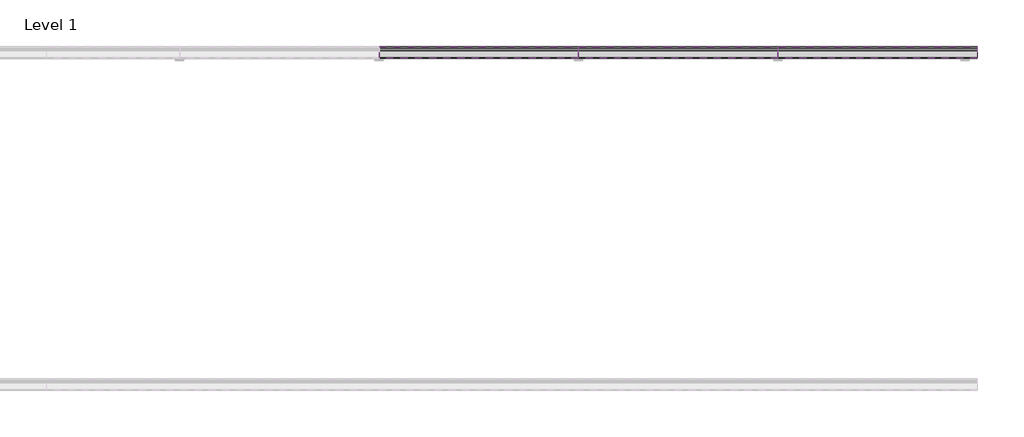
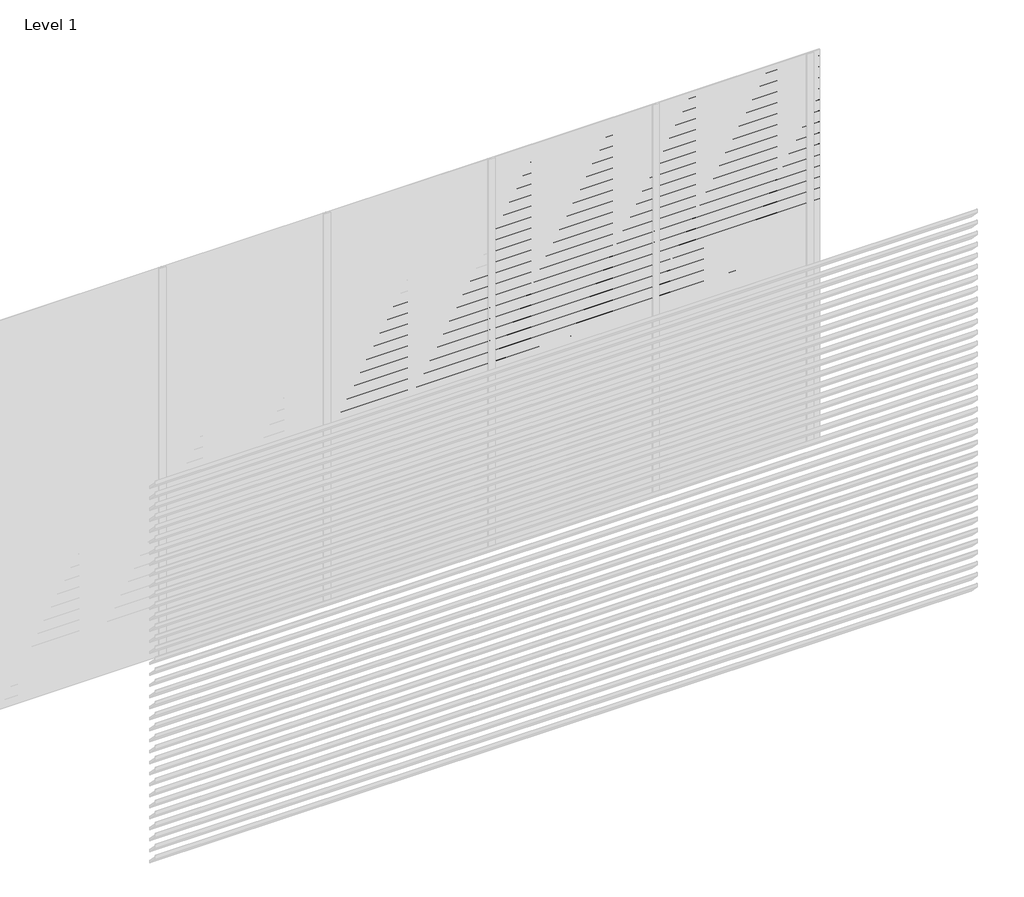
# One storey, part 10 of 10: 95 proxies.
"""IFC4 building model written with IfcOpenShell, lengths in millimetres."""

from ifc_helpers import new_model, si_unit, frame, origin, place, context, project, spatial, polyline, outline, extrude, element, save

model = new_model("IFC4")

# Units and contexts
model_context = context("Model", 3, world=origin())
ifc_project = project(units=[si_unit("LENGTHUNIT", "METRE", prefix="MILLI")], contexts=[model_context])

# Site, building, storey
site = spatial("IfcSite", under=ifc_project)
building = spatial("IfcBuilding", under=site)
storey = spatial("IfcBuildingStorey", under=building, Name="Level 1", Elevation=0.0)

# Proxies
placement = place(None, origin())
element("IfcBuildingElementProxy", 1, Name="Wall Sweeps", at=placement, inside=storey, context=model_context, shape_type="SweptSolid", body=[
    extrude(outline(polyline([(5.0, 2125.0), (5.0, 2112.0), (73.0, 2044.0), (73.0, 2026.0), (3.0, 2096.0), (3.0, 2125.0), (5.0, 2125.0)])), frame((2400.0, 0.0, 0.0), z_axis=(1.0, 0.0, 0.0), x_axis=(0.0, 1.0, 0.0)), (0.0, 0.0, 1.0), 1200.0),
])
element("IfcBuildingElementProxy", 2, Name="Wall Sweeps", at=placement, inside=storey, context=model_context, shape_type="SweptSolid", body=[
    extrude(outline(polyline([(5.0, 2040.0), (5.0, 2027.0), (73.0, 1959.0), (73.0, 1941.0), (3.0, 2011.0), (3.0, 2040.0), (5.0, 2040.0)])), frame((2400.0, 0.0, 0.0), z_axis=(1.0, 0.0, 0.0), x_axis=(0.0, 1.0, 0.0)), (0.0, 0.0, 1.0), 1200.0),
])
element("IfcBuildingElementProxy", 3, Name="Wall Sweeps", at=placement, inside=storey, context=model_context, shape_type="SweptSolid", body=[
    extrude(outline(polyline([(5.0, 1955.0), (5.0, 1942.0), (73.0, 1874.0), (73.0, 1856.0), (3.0, 1926.0), (3.0, 1955.0), (5.0, 1955.0)])), frame((2400.0, 0.0, 0.0), z_axis=(1.0, 0.0, 0.0), x_axis=(0.0, 1.0, 0.0)), (0.0, 0.0, 1.0), 1200.0),
])
element("IfcBuildingElementProxy", 4, Name="Wall Sweeps", at=placement, inside=storey, context=model_context, shape_type="SweptSolid", body=[
    extrude(outline(polyline([(5.0, 1870.0), (5.0, 1857.0), (73.0, 1789.0), (73.0, 1771.0), (3.0, 1841.0), (3.0, 1870.0), (5.0, 1870.0)])), frame((2400.0, 0.0, 0.0), z_axis=(1.0, 0.0, 0.0), x_axis=(0.0, 1.0, 0.0)), (0.0, 0.0, 1.0), 1200.0),
])
element("IfcBuildingElementProxy", 5, Name="Wall Sweeps", at=placement, inside=storey, context=model_context, shape_type="SweptSolid", body=[
    extrude(outline(polyline([(5.0, 1785.0), (5.0, 1772.0), (73.0, 1704.0), (73.0, 1686.0), (3.0, 1756.0), (3.0, 1785.0), (5.0, 1785.0)])), frame((2400.0, 0.0, 0.0), z_axis=(1.0, 0.0, 0.0), x_axis=(0.0, 1.0, 0.0)), (0.0, 0.0, 1.0), 1200.0),
])
element("IfcBuildingElementProxy", 6, Name="Wall Sweeps", at=placement, inside=storey, context=model_context, shape_type="SweptSolid", body=[
    extrude(outline(polyline([(5.0, 1700.0), (5.0, 1687.0), (73.0, 1619.0), (73.0, 1601.0), (3.0, 1671.0), (3.0, 1700.0), (5.0, 1700.0)])), frame((2400.0, 0.0, 0.0), z_axis=(1.0, 0.0, 0.0), x_axis=(0.0, 1.0, 0.0)), (0.0, 0.0, 1.0), 1200.0),
])
element("IfcBuildingElementProxy", 7, Name="Wall Sweeps", at=placement, inside=storey, context=model_context, shape_type="SweptSolid", body=[
    extrude(outline(polyline([(5.0, 1615.0), (5.0, 1602.0), (73.0, 1534.0), (73.0, 1516.0), (3.0, 1586.0), (3.0, 1615.0), (5.0, 1615.0)])), frame((2400.0, 0.0, 0.0), z_axis=(1.0, 0.0, 0.0), x_axis=(0.0, 1.0, 0.0)), (0.0, 0.0, 1.0), 1200.0),
])
element("IfcBuildingElementProxy", 8, Name="Wall Sweeps", at=placement, inside=storey, context=model_context, shape_type="SweptSolid", body=[
    extrude(outline(polyline([(5.0, 1530.0), (5.0, 1517.0), (73.0, 1449.0), (73.0, 1431.0), (3.0, 1501.0), (3.0, 1530.0), (5.0, 1530.0)])), frame((2400.0, 0.0, 0.0), z_axis=(1.0, 0.0, 0.0), x_axis=(0.0, 1.0, 0.0)), (0.0, 0.0, 1.0), 1200.0),
])
element("IfcBuildingElementProxy", 9, Name="Wall Sweeps", at=placement, inside=storey, context=model_context, shape_type="SweptSolid", body=[
    extrude(outline(polyline([(5.0, 1445.0), (5.0, 1432.0), (73.0, 1364.0), (73.0, 1346.0), (3.0, 1416.0), (3.0, 1445.0), (5.0, 1445.0)])), frame((2400.0, 0.0, 0.0), z_axis=(1.0, 0.0, 0.0), x_axis=(0.0, 1.0, 0.0)), (0.0, 0.0, 1.0), 1200.0),
])
element("IfcBuildingElementProxy", 10, Name="Wall Sweeps", at=placement, inside=storey, context=model_context, shape_type="SweptSolid", body=[
    extrude(outline(polyline([(5.0, 1360.0), (5.0, 1347.0), (73.0, 1279.0), (73.0, 1261.0), (3.0, 1331.0), (3.0, 1360.0), (5.0, 1360.0)])), frame((2400.0, 0.0, 0.0), z_axis=(1.0, 0.0, 0.0), x_axis=(0.0, 1.0, 0.0)), (0.0, 0.0, 1.0), 1200.0),
])
element("IfcBuildingElementProxy", 11, Name="Wall Sweeps", at=placement, inside=storey, context=model_context, shape_type="SweptSolid", body=[
    extrude(outline(polyline([(5.0, 1275.0), (5.0, 1262.0), (73.0, 1194.0), (73.0, 1176.0), (3.0, 1246.0), (3.0, 1275.0), (5.0, 1275.0)])), frame((2400.0, 0.0, 0.0), z_axis=(1.0, 0.0, 0.0), x_axis=(0.0, 1.0, 0.0)), (0.0, 0.0, 1.0), 1200.0),
])
element("IfcBuildingElementProxy", 12, Name="Wall Sweeps", at=placement, inside=storey, context=model_context, shape_type="SweptSolid", body=[
    extrude(outline(polyline([(5.0, 1190.0), (5.0, 1177.0), (73.0, 1109.0), (73.0, 1091.0), (3.0, 1161.0), (3.0, 1190.0), (5.0, 1190.0)])), frame((2400.0, 0.0, 0.0), z_axis=(1.0, 0.0, 0.0), x_axis=(0.0, 1.0, 0.0)), (0.0, 0.0, 1.0), 1200.0),
])
element("IfcBuildingElementProxy", 13, Name="Wall Sweeps", at=placement, inside=storey, context=model_context, shape_type="SweptSolid", body=[
    extrude(outline(polyline([(5.0, 1105.0), (5.0, 1092.0), (73.0, 1024.0), (73.0, 1006.0), (3.0, 1076.0), (3.0, 1105.0), (5.0, 1105.0)])), frame((2400.0, 0.0, 0.0), z_axis=(1.0, 0.0, 0.0), x_axis=(0.0, 1.0, 0.0)), (0.0, 0.0, 1.0), 1200.0),
])
element("IfcBuildingElementProxy", 14, Name="Wall Sweeps", at=placement, inside=storey, context=model_context, shape_type="SweptSolid", body=[
    extrude(outline(polyline([(5.0, 1020.0), (5.0, 1007.0), (73.0, 939.0), (73.0, 921.0), (3.0, 991.0), (3.0, 1020.0), (5.0, 1020.0)])), frame((2400.0, 0.0, 0.0), z_axis=(1.0, 0.0, 0.0), x_axis=(0.0, 1.0, 0.0)), (0.0, 0.0, 1.0), 1200.0),
])
element("IfcBuildingElementProxy", 15, Name="Wall Sweeps", at=placement, inside=storey, context=model_context, shape_type="SweptSolid", body=[
    extrude(outline(polyline([(5.0, 935.0), (5.0, 922.0), (73.0, 854.0), (73.0, 836.0), (3.0, 906.0), (3.0, 935.0), (5.0, 935.0)])), frame((2400.0, 0.0, 0.0), z_axis=(1.0, 0.0, 0.0), x_axis=(0.0, 1.0, 0.0)), (0.0, 0.0, 1.0), 1200.0),
])
element("IfcBuildingElementProxy", 16, Name="Wall Sweeps", at=placement, inside=storey, context=model_context, shape_type="SweptSolid", body=[
    extrude(outline(polyline([(5.0, 850.0), (5.0, 837.0), (73.0, 769.0), (73.0, 751.0), (3.0, 821.0), (3.0, 850.0), (5.0, 850.0)])), frame((2400.0, 0.0, 0.0), z_axis=(1.0, 0.0, 0.0), x_axis=(0.0, 1.0, 0.0)), (0.0, 0.0, 1.0), 1200.0),
])
element("IfcBuildingElementProxy", 17, Name="Wall Sweeps", at=placement, inside=storey, context=model_context, shape_type="SweptSolid", body=[
    extrude(outline(polyline([(5.0, 765.0), (5.0, 752.0), (73.0, 684.0), (73.0, 666.0), (3.0, 736.0), (3.0, 765.0), (5.0, 765.0)])), frame((2400.0, 0.0, 0.0), z_axis=(1.0, 0.0, 0.0), x_axis=(0.0, 1.0, 0.0)), (0.0, 0.0, 1.0), 1200.0),
])
element("IfcBuildingElementProxy", 18, Name="Wall Sweeps", at=placement, inside=storey, context=model_context, shape_type="SweptSolid", body=[
    extrude(outline(polyline([(5.0, 680.0), (5.0, 667.0), (73.0, 599.0), (73.0, 581.0), (3.0, 651.0), (3.0, 680.0), (5.0, 680.0)])), frame((2400.0, 0.0, 0.0), z_axis=(1.0, 0.0, 0.0), x_axis=(0.0, 1.0, 0.0)), (0.0, 0.0, 1.0), 1200.0),
])
element("IfcBuildingElementProxy", 19, Name="Wall Sweeps", at=placement, inside=storey, context=model_context, shape_type="SweptSolid", body=[
    extrude(outline(polyline([(5.0, 595.0), (5.0, 582.0), (73.0, 514.0), (73.0, 496.0), (3.0, 566.0), (3.0, 595.0), (5.0, 595.0)])), frame((2400.0, 0.0, 0.0), z_axis=(1.0, 0.0, 0.0), x_axis=(0.0, 1.0, 0.0)), (0.0, 0.0, 1.0), 1200.0),
])
element("IfcBuildingElementProxy", 20, Name="Wall Sweeps", at=placement, inside=storey, context=model_context, shape_type="SweptSolid", body=[
    extrude(outline(polyline([(5.0, 510.0), (5.0, 497.0), (73.0, 429.0), (73.0, 411.0), (3.0, 481.0), (3.0, 510.0), (5.0, 510.0)])), frame((2400.0, 0.0, 0.0), z_axis=(1.0, 0.0, 0.0), x_axis=(0.0, 1.0, 0.0)), (0.0, 0.0, 1.0), 1200.0),
])
element("IfcBuildingElementProxy", 21, Name="Wall Sweeps", at=placement, inside=storey, context=model_context, shape_type="SweptSolid", body=[
    extrude(outline(polyline([(5.0, 425.0), (5.0, 412.0), (73.0, 344.0), (73.0, 326.0), (3.0, 396.0), (3.0, 425.0), (5.0, 425.0)])), frame((2400.0, 0.0, 0.0), z_axis=(1.0, 0.0, 0.0), x_axis=(0.0, 1.0, 0.0)), (0.0, 0.0, 1.0), 1200.0),
])
element("IfcBuildingElementProxy", 22, Name="Wall Sweeps", at=placement, inside=storey, context=model_context, shape_type="SweptSolid", body=[
    extrude(outline(polyline([(5.0, 340.0), (5.0, 327.0), (73.0, 259.0), (73.0, 241.0), (3.0, 311.0), (3.0, 340.0), (5.0, 340.0)])), frame((2400.0, 0.0, 0.0), z_axis=(1.0, 0.0, 0.0), x_axis=(0.0, 1.0, 0.0)), (0.0, 0.0, 1.0), 1200.0),
])
element("IfcBuildingElementProxy", 23, Name="Wall Sweeps", at=placement, inside=storey, context=model_context, shape_type="SweptSolid", body=[
    extrude(outline(polyline([(5.0, 255.0), (5.0, 242.0), (73.0, 174.0), (73.0, 156.0), (3.0, 226.0), (3.0, 255.0), (5.0, 255.0)])), frame((2400.0, 0.0, 0.0), z_axis=(1.0, 0.0, 0.0), x_axis=(0.0, 1.0, 0.0)), (0.0, 0.0, 1.0), 1200.0),
])
element("IfcBuildingElementProxy", 24, Name="Wall Sweeps", at=placement, inside=storey, context=model_context, shape_type="SweptSolid", body=[
    extrude(outline(polyline([(5.0, 170.0), (5.0, 157.0), (73.0, 89.0), (73.0, 71.0), (3.0, 141.0), (3.0, 170.0), (5.0, 170.0)])), frame((2400.0, 0.0, 0.0), z_axis=(1.0, 0.0, 0.0), x_axis=(0.0, 1.0, 0.0)), (0.0, 0.0, 1.0), 1200.0),
])
element("IfcBuildingElementProxy", 25, Name="Wall Sweeps", at=placement, inside=storey, context=model_context, shape_type="SweptSolid", body=[
    extrude(outline(polyline([(5.0, 85.0), (5.0, 72.0), (73.0, 4.0), (73.0, -14.0), (3.0, 56.0), (3.0, 85.0), (5.0, 85.0)])), frame((2400.0, 0.0, 0.0), z_axis=(1.0, 0.0, 0.0), x_axis=(0.0, 1.0, 0.0)), (0.0, 0.0, 1.0), 1200.0),
])
element("IfcBuildingElementProxy", 26, Name="Wall Sweeps", at=placement, inside=storey, context=model_context, shape_type="SweptSolid", body=[
    extrude(outline(polyline([(5.0, 2975.0), (5.0, 2962.0), (73.0, 2894.0), (73.0, 2876.0), (3.0, 2946.0), (3.0, 2975.0), (5.0, 2975.0)])), frame((3600.0, 0.0, 0.0), z_axis=(1.0, 0.0, 0.0), x_axis=(0.0, 1.0, 0.0)), (0.0, 0.0, 1.0), 1200.0),
])
element("IfcBuildingElementProxy", 27, Name="Wall Sweeps", at=placement, inside=storey, context=model_context, shape_type="SweptSolid", body=[
    extrude(outline(polyline([(5.0, 2890.0), (5.0, 2877.0), (73.0, 2809.0), (73.0, 2791.0), (3.0, 2861.0), (3.0, 2890.0), (5.0, 2890.0)])), frame((3600.0, 0.0, 0.0), z_axis=(1.0, 0.0, 0.0), x_axis=(0.0, 1.0, 0.0)), (0.0, 0.0, 1.0), 1200.0),
])
element("IfcBuildingElementProxy", 28, Name="Wall Sweeps", at=placement, inside=storey, context=model_context, shape_type="SweptSolid", body=[
    extrude(outline(polyline([(5.0, 2805.0), (5.0, 2792.0), (73.0, 2724.0), (73.0, 2706.0), (3.0, 2776.0), (3.0, 2805.0), (5.0, 2805.0)])), frame((3600.0, 0.0, 0.0), z_axis=(1.0, 0.0, 0.0), x_axis=(0.0, 1.0, 0.0)), (0.0, 0.0, 1.0), 1200.0),
])
element("IfcBuildingElementProxy", 29, Name="Wall Sweeps", at=placement, inside=storey, context=model_context, shape_type="SweptSolid", body=[
    extrude(outline(polyline([(5.0, 2720.0), (5.0, 2707.0), (73.0, 2639.0), (73.0, 2621.0), (3.0, 2691.0), (3.0, 2720.0), (5.0, 2720.0)])), frame((3600.0, 0.0, 0.0), z_axis=(1.0, 0.0, 0.0), x_axis=(0.0, 1.0, 0.0)), (0.0, 0.0, 1.0), 1200.0),
])
element("IfcBuildingElementProxy", 30, Name="Wall Sweeps", at=placement, inside=storey, context=model_context, shape_type="SweptSolid", body=[
    extrude(outline(polyline([(5.0, 2635.0), (5.0, 2622.0), (73.0, 2554.0), (73.0, 2536.0), (3.0, 2606.0), (3.0, 2635.0), (5.0, 2635.0)])), frame((3600.0, 0.0, 0.0), z_axis=(1.0, 0.0, 0.0), x_axis=(0.0, 1.0, 0.0)), (0.0, 0.0, 1.0), 1200.0),
])
element("IfcBuildingElementProxy", 31, Name="Wall Sweeps", at=placement, inside=storey, context=model_context, shape_type="SweptSolid", body=[
    extrude(outline(polyline([(5.0, 2550.0), (5.0, 2537.0), (73.0, 2469.0), (73.0, 2451.0), (3.0, 2521.0), (3.0, 2550.0), (5.0, 2550.0)])), frame((3600.0, 0.0, 0.0), z_axis=(1.0, 0.0, 0.0), x_axis=(0.0, 1.0, 0.0)), (0.0, 0.0, 1.0), 1200.0),
])
element("IfcBuildingElementProxy", 32, Name="Wall Sweeps", at=placement, inside=storey, context=model_context, shape_type="SweptSolid", body=[
    extrude(outline(polyline([(5.0, 2465.0), (5.0, 2452.0), (73.0, 2384.0), (73.0, 2366.0), (3.0, 2436.0), (3.0, 2465.0), (5.0, 2465.0)])), frame((3600.0, 0.0, 0.0), z_axis=(1.0, 0.0, 0.0), x_axis=(0.0, 1.0, 0.0)), (0.0, 0.0, 1.0), 1200.0),
])
element("IfcBuildingElementProxy", 33, Name="Wall Sweeps", at=placement, inside=storey, context=model_context, shape_type="SweptSolid", body=[
    extrude(outline(polyline([(5.0, 2380.0), (5.0, 2367.0), (73.0, 2299.0), (73.0, 2281.0), (3.0, 2351.0), (3.0, 2380.0), (5.0, 2380.0)])), frame((3600.0, 0.0, 0.0), z_axis=(1.0, 0.0, 0.0), x_axis=(0.0, 1.0, 0.0)), (0.0, 0.0, 1.0), 1200.0),
])
element("IfcBuildingElementProxy", 34, Name="Wall Sweeps", at=placement, inside=storey, context=model_context, shape_type="SweptSolid", body=[
    extrude(outline(polyline([(5.0, 2295.0), (5.0, 2282.0), (73.0, 2214.0), (73.0, 2196.0), (3.0, 2266.0), (3.0, 2295.0), (5.0, 2295.0)])), frame((3600.0, 0.0, 0.0), z_axis=(1.0, 0.0, 0.0), x_axis=(0.0, 1.0, 0.0)), (0.0, 0.0, 1.0), 1200.0),
])
element("IfcBuildingElementProxy", 35, Name="Wall Sweeps", at=placement, inside=storey, context=model_context, shape_type="SweptSolid", body=[
    extrude(outline(polyline([(5.0, 2210.0), (5.0, 2197.0), (73.0, 2129.0), (73.0, 2111.0), (3.0, 2181.0), (3.0, 2210.0), (5.0, 2210.0)])), frame((3600.0, 0.0, 0.0), z_axis=(1.0, 0.0, 0.0), x_axis=(0.0, 1.0, 0.0)), (0.0, 0.0, 1.0), 1200.0),
])
element("IfcBuildingElementProxy", 36, Name="Wall Sweeps", at=placement, inside=storey, context=model_context, shape_type="SweptSolid", body=[
    extrude(outline(polyline([(5.0, 2125.0), (5.0, 2112.0), (73.0, 2044.0), (73.0, 2026.0), (3.0, 2096.0), (3.0, 2125.0), (5.0, 2125.0)])), frame((3600.0, 0.0, 0.0), z_axis=(1.0, 0.0, 0.0), x_axis=(0.0, 1.0, 0.0)), (0.0, 0.0, 1.0), 1200.0),
])
element("IfcBuildingElementProxy", 37, Name="Wall Sweeps", at=placement, inside=storey, context=model_context, shape_type="SweptSolid", body=[
    extrude(outline(polyline([(5.0, 2040.0), (5.0, 2027.0), (73.0, 1959.0), (73.0, 1941.0), (3.0, 2011.0), (3.0, 2040.0), (5.0, 2040.0)])), frame((3600.0, 0.0, 0.0), z_axis=(1.0, 0.0, 0.0), x_axis=(0.0, 1.0, 0.0)), (0.0, 0.0, 1.0), 1200.0),
])
element("IfcBuildingElementProxy", 38, Name="Wall Sweeps", at=placement, inside=storey, context=model_context, shape_type="SweptSolid", body=[
    extrude(outline(polyline([(5.0, 1955.0), (5.0, 1942.0), (73.0, 1874.0), (73.0, 1856.0), (3.0, 1926.0), (3.0, 1955.0), (5.0, 1955.0)])), frame((3600.0, 0.0, 0.0), z_axis=(1.0, 0.0, 0.0), x_axis=(0.0, 1.0, 0.0)), (0.0, 0.0, 1.0), 1200.0),
])
element("IfcBuildingElementProxy", 39, Name="Wall Sweeps", at=placement, inside=storey, context=model_context, shape_type="SweptSolid", body=[
    extrude(outline(polyline([(5.0, 1870.0), (5.0, 1857.0), (73.0, 1789.0), (73.0, 1771.0), (3.0, 1841.0), (3.0, 1870.0), (5.0, 1870.0)])), frame((3600.0, 0.0, 0.0), z_axis=(1.0, 0.0, 0.0), x_axis=(0.0, 1.0, 0.0)), (0.0, 0.0, 1.0), 1200.0),
])
element("IfcBuildingElementProxy", 40, Name="Wall Sweeps", at=placement, inside=storey, context=model_context, shape_type="SweptSolid", body=[
    extrude(outline(polyline([(5.0, 1785.0), (5.0, 1772.0), (73.0, 1704.0), (73.0, 1686.0), (3.0, 1756.0), (3.0, 1785.0), (5.0, 1785.0)])), frame((3600.0, 0.0, 0.0), z_axis=(1.0, 0.0, 0.0), x_axis=(0.0, 1.0, 0.0)), (0.0, 0.0, 1.0), 1200.0),
])
element("IfcBuildingElementProxy", 41, Name="Wall Sweeps", at=placement, inside=storey, context=model_context, shape_type="SweptSolid", body=[
    extrude(outline(polyline([(5.0, 1700.0), (5.0, 1687.0), (73.0, 1619.0), (73.0, 1601.0), (3.0, 1671.0), (3.0, 1700.0), (5.0, 1700.0)])), frame((3600.0, 0.0, 0.0), z_axis=(1.0, 0.0, 0.0), x_axis=(0.0, 1.0, 0.0)), (0.0, 0.0, 1.0), 1200.0),
])
element("IfcBuildingElementProxy", 42, Name="Wall Sweeps", at=placement, inside=storey, context=model_context, shape_type="SweptSolid", body=[
    extrude(outline(polyline([(5.0, 1615.0), (5.0, 1602.0), (73.0, 1534.0), (73.0, 1516.0), (3.0, 1586.0), (3.0, 1615.0), (5.0, 1615.0)])), frame((3600.0, 0.0, 0.0), z_axis=(1.0, 0.0, 0.0), x_axis=(0.0, 1.0, 0.0)), (0.0, 0.0, 1.0), 1200.0),
])
element("IfcBuildingElementProxy", 43, Name="Wall Sweeps", at=placement, inside=storey, context=model_context, shape_type="SweptSolid", body=[
    extrude(outline(polyline([(5.0, 1530.0), (5.0, 1517.0), (73.0, 1449.0), (73.0, 1431.0), (3.0, 1501.0), (3.0, 1530.0), (5.0, 1530.0)])), frame((3600.0, 0.0, 0.0), z_axis=(1.0, 0.0, 0.0), x_axis=(0.0, 1.0, 0.0)), (0.0, 0.0, 1.0), 1200.0),
])
element("IfcBuildingElementProxy", 44, Name="Wall Sweeps", at=placement, inside=storey, context=model_context, shape_type="SweptSolid", body=[
    extrude(outline(polyline([(5.0, 1445.0), (5.0, 1432.0), (73.0, 1364.0), (73.0, 1346.0), (3.0, 1416.0), (3.0, 1445.0), (5.0, 1445.0)])), frame((3600.0, 0.0, 0.0), z_axis=(1.0, 0.0, 0.0), x_axis=(0.0, 1.0, 0.0)), (0.0, 0.0, 1.0), 1200.0),
])
element("IfcBuildingElementProxy", 45, Name="Wall Sweeps", at=placement, inside=storey, context=model_context, shape_type="SweptSolid", body=[
    extrude(outline(polyline([(5.0, 1360.0), (5.0, 1347.0), (73.0, 1279.0), (73.0, 1261.0), (3.0, 1331.0), (3.0, 1360.0), (5.0, 1360.0)])), frame((3600.0, 0.0, 0.0), z_axis=(1.0, 0.0, 0.0), x_axis=(0.0, 1.0, 0.0)), (0.0, 0.0, 1.0), 1200.0),
])
element("IfcBuildingElementProxy", 46, Name="Wall Sweeps", at=placement, inside=storey, context=model_context, shape_type="SweptSolid", body=[
    extrude(outline(polyline([(5.0, 1275.0), (5.0, 1262.0), (73.0, 1194.0), (73.0, 1176.0), (3.0, 1246.0), (3.0, 1275.0), (5.0, 1275.0)])), frame((3600.0, 0.0, 0.0), z_axis=(1.0, 0.0, 0.0), x_axis=(0.0, 1.0, 0.0)), (0.0, 0.0, 1.0), 1200.0),
])
element("IfcBuildingElementProxy", 47, Name="Wall Sweeps", at=placement, inside=storey, context=model_context, shape_type="SweptSolid", body=[
    extrude(outline(polyline([(5.0, 1190.0), (5.0, 1177.0), (73.0, 1109.0), (73.0, 1091.0), (3.0, 1161.0), (3.0, 1190.0), (5.0, 1190.0)])), frame((3600.0, 0.0, 0.0), z_axis=(1.0, 0.0, 0.0), x_axis=(0.0, 1.0, 0.0)), (0.0, 0.0, 1.0), 1200.0),
])
element("IfcBuildingElementProxy", 48, Name="Wall Sweeps", at=placement, inside=storey, context=model_context, shape_type="SweptSolid", body=[
    extrude(outline(polyline([(5.0, 1105.0), (5.0, 1092.0), (73.0, 1024.0), (73.0, 1006.0), (3.0, 1076.0), (3.0, 1105.0), (5.0, 1105.0)])), frame((3600.0, 0.0, 0.0), z_axis=(1.0, 0.0, 0.0), x_axis=(0.0, 1.0, 0.0)), (0.0, 0.0, 1.0), 1200.0),
])
element("IfcBuildingElementProxy", 49, Name="Wall Sweeps", at=placement, inside=storey, context=model_context, shape_type="SweptSolid", body=[
    extrude(outline(polyline([(5.0, 1020.0), (5.0, 1007.0), (73.0, 939.0), (73.0, 921.0), (3.0, 991.0), (3.0, 1020.0), (5.0, 1020.0)])), frame((3600.0, 0.0, 0.0), z_axis=(1.0, 0.0, 0.0), x_axis=(0.0, 1.0, 0.0)), (0.0, 0.0, 1.0), 1200.0),
])
element("IfcBuildingElementProxy", 50, Name="Wall Sweeps", at=placement, inside=storey, context=model_context, shape_type="SweptSolid", body=[
    extrude(outline(polyline([(5.0, 935.0), (5.0, 922.0), (73.0, 854.0), (73.0, 836.0), (3.0, 906.0), (3.0, 935.0), (5.0, 935.0)])), frame((3600.0, 0.0, 0.0), z_axis=(1.0, 0.0, 0.0), x_axis=(0.0, 1.0, 0.0)), (0.0, 0.0, 1.0), 1200.0),
])
element("IfcBuildingElementProxy", 51, Name="Wall Sweeps", at=placement, inside=storey, context=model_context, shape_type="SweptSolid", body=[
    extrude(outline(polyline([(5.0, 850.0), (5.0, 837.0), (73.0, 769.0), (73.0, 751.0), (3.0, 821.0), (3.0, 850.0), (5.0, 850.0)])), frame((3600.0, 0.0, 0.0), z_axis=(1.0, 0.0, 0.0), x_axis=(0.0, 1.0, 0.0)), (0.0, 0.0, 1.0), 1200.0),
])
element("IfcBuildingElementProxy", 52, Name="Wall Sweeps", at=placement, inside=storey, context=model_context, shape_type="SweptSolid", body=[
    extrude(outline(polyline([(5.0, 765.0), (5.0, 752.0), (73.0, 684.0), (73.0, 666.0), (3.0, 736.0), (3.0, 765.0), (5.0, 765.0)])), frame((3600.0, 0.0, 0.0), z_axis=(1.0, 0.0, 0.0), x_axis=(0.0, 1.0, 0.0)), (0.0, 0.0, 1.0), 1200.0),
])
element("IfcBuildingElementProxy", 53, Name="Wall Sweeps", at=placement, inside=storey, context=model_context, shape_type="SweptSolid", body=[
    extrude(outline(polyline([(5.0, 680.0), (5.0, 667.0), (73.0, 599.0), (73.0, 581.0), (3.0, 651.0), (3.0, 680.0), (5.0, 680.0)])), frame((3600.0, 0.0, 0.0), z_axis=(1.0, 0.0, 0.0), x_axis=(0.0, 1.0, 0.0)), (0.0, 0.0, 1.0), 1200.0),
])
element("IfcBuildingElementProxy", 54, Name="Wall Sweeps", at=placement, inside=storey, context=model_context, shape_type="SweptSolid", body=[
    extrude(outline(polyline([(5.0, 595.0), (5.0, 582.0), (73.0, 514.0), (73.0, 496.0), (3.0, 566.0), (3.0, 595.0), (5.0, 595.0)])), frame((3600.0, 0.0, 0.0), z_axis=(1.0, 0.0, 0.0), x_axis=(0.0, 1.0, 0.0)), (0.0, 0.0, 1.0), 1200.0),
])
element("IfcBuildingElementProxy", 55, Name="Wall Sweeps", at=placement, inside=storey, context=model_context, shape_type="SweptSolid", body=[
    extrude(outline(polyline([(5.0, 510.0), (5.0, 497.0), (73.0, 429.0), (73.0, 411.0), (3.0, 481.0), (3.0, 510.0), (5.0, 510.0)])), frame((3600.0, 0.0, 0.0), z_axis=(1.0, 0.0, 0.0), x_axis=(0.0, 1.0, 0.0)), (0.0, 0.0, 1.0), 1200.0),
])
element("IfcBuildingElementProxy", 56, Name="Wall Sweeps", at=placement, inside=storey, context=model_context, shape_type="SweptSolid", body=[
    extrude(outline(polyline([(5.0, 425.0), (5.0, 412.0), (73.0, 344.0), (73.0, 326.0), (3.0, 396.0), (3.0, 425.0), (5.0, 425.0)])), frame((3600.0, 0.0, 0.0), z_axis=(1.0, 0.0, 0.0), x_axis=(0.0, 1.0, 0.0)), (0.0, 0.0, 1.0), 1200.0),
])
element("IfcBuildingElementProxy", 57, Name="Wall Sweeps", at=placement, inside=storey, context=model_context, shape_type="SweptSolid", body=[
    extrude(outline(polyline([(5.0, 340.0), (5.0, 327.0), (73.0, 259.0), (73.0, 241.0), (3.0, 311.0), (3.0, 340.0), (5.0, 340.0)])), frame((3600.0, 0.0, 0.0), z_axis=(1.0, 0.0, 0.0), x_axis=(0.0, 1.0, 0.0)), (0.0, 0.0, 1.0), 1200.0),
])
element("IfcBuildingElementProxy", 58, Name="Wall Sweeps", at=placement, inside=storey, context=model_context, shape_type="SweptSolid", body=[
    extrude(outline(polyline([(5.0, 255.0), (5.0, 242.0), (73.0, 174.0), (73.0, 156.0), (3.0, 226.0), (3.0, 255.0), (5.0, 255.0)])), frame((3600.0, 0.0, 0.0), z_axis=(1.0, 0.0, 0.0), x_axis=(0.0, 1.0, 0.0)), (0.0, 0.0, 1.0), 1200.0),
])
element("IfcBuildingElementProxy", 59, Name="Wall Sweeps", at=placement, inside=storey, context=model_context, shape_type="SweptSolid", body=[
    extrude(outline(polyline([(5.0, 170.0), (5.0, 157.0), (73.0, 89.0), (73.0, 71.0), (3.0, 141.0), (3.0, 170.0), (5.0, 170.0)])), frame((3600.0, 0.0, 0.0), z_axis=(1.0, 0.0, 0.0), x_axis=(0.0, 1.0, 0.0)), (0.0, 0.0, 1.0), 1200.0),
])
element("IfcBuildingElementProxy", 60, Name="Wall Sweeps", at=placement, inside=storey, context=model_context, shape_type="SweptSolid", body=[
    extrude(outline(polyline([(5.0, 85.0), (5.0, 72.0), (73.0, 4.0), (73.0, -14.0), (3.0, 56.0), (3.0, 85.0), (5.0, 85.0)])), frame((3600.0, 0.0, 0.0), z_axis=(1.0, 0.0, 0.0), x_axis=(0.0, 1.0, 0.0)), (0.0, 0.0, 1.0), 1200.0),
])
element("IfcBuildingElementProxy", 61, Name="Wall Sweeps", at=placement, inside=storey, context=model_context, shape_type="SweptSolid", body=[
    extrude(outline(polyline([(5.0, 2975.0), (5.0, 2962.0), (73.0, 2894.0), (73.0, 2876.0), (3.0, 2946.0), (3.0, 2975.0), (5.0, 2975.0)])), frame((4800.0, 0.0, 0.0), z_axis=(1.0, 0.0, 0.0), x_axis=(0.0, 1.0, 0.0)), (0.0, 0.0, 1.0), 1200.0),
])
element("IfcBuildingElementProxy", 62, Name="Wall Sweeps", at=placement, inside=storey, context=model_context, shape_type="SweptSolid", body=[
    extrude(outline(polyline([(5.0, 2890.0), (5.0, 2877.0), (73.0, 2809.0), (73.0, 2791.0), (3.0, 2861.0), (3.0, 2890.0), (5.0, 2890.0)])), frame((4800.0, 0.0, 0.0), z_axis=(1.0, 0.0, 0.0), x_axis=(0.0, 1.0, 0.0)), (0.0, 0.0, 1.0), 1200.0),
])
element("IfcBuildingElementProxy", 63, Name="Wall Sweeps", at=placement, inside=storey, context=model_context, shape_type="SweptSolid", body=[
    extrude(outline(polyline([(5.0, 2805.0), (5.0, 2792.0), (73.0, 2724.0), (73.0, 2706.0), (3.0, 2776.0), (3.0, 2805.0), (5.0, 2805.0)])), frame((4800.0, 0.0, 0.0), z_axis=(1.0, 0.0, 0.0), x_axis=(0.0, 1.0, 0.0)), (0.0, 0.0, 1.0), 1200.0),
])
element("IfcBuildingElementProxy", 64, Name="Wall Sweeps", at=placement, inside=storey, context=model_context, shape_type="SweptSolid", body=[
    extrude(outline(polyline([(5.0, 2720.0), (5.0, 2707.0), (73.0, 2639.0), (73.0, 2621.0), (3.0, 2691.0), (3.0, 2720.0), (5.0, 2720.0)])), frame((4800.0, 0.0, 0.0), z_axis=(1.0, 0.0, 0.0), x_axis=(0.0, 1.0, 0.0)), (0.0, 0.0, 1.0), 1200.0),
])
element("IfcBuildingElementProxy", 65, Name="Wall Sweeps", at=placement, inside=storey, context=model_context, shape_type="SweptSolid", body=[
    extrude(outline(polyline([(5.0, 2635.0), (5.0, 2622.0), (73.0, 2554.0), (73.0, 2536.0), (3.0, 2606.0), (3.0, 2635.0), (5.0, 2635.0)])), frame((4800.0, 0.0, 0.0), z_axis=(1.0, 0.0, 0.0), x_axis=(0.0, 1.0, 0.0)), (0.0, 0.0, 1.0), 1200.0),
])
element("IfcBuildingElementProxy", 66, Name="Wall Sweeps", at=placement, inside=storey, context=model_context, shape_type="SweptSolid", body=[
    extrude(outline(polyline([(5.0, 2550.0), (5.0, 2537.0), (73.0, 2469.0), (73.0, 2451.0), (3.0, 2521.0), (3.0, 2550.0), (5.0, 2550.0)])), frame((4800.0, 0.0, 0.0), z_axis=(1.0, 0.0, 0.0), x_axis=(0.0, 1.0, 0.0)), (0.0, 0.0, 1.0), 1200.0),
])
element("IfcBuildingElementProxy", 67, Name="Wall Sweeps", at=placement, inside=storey, context=model_context, shape_type="SweptSolid", body=[
    extrude(outline(polyline([(5.0, 2465.0), (5.0, 2452.0), (73.0, 2384.0), (73.0, 2366.0), (3.0, 2436.0), (3.0, 2465.0), (5.0, 2465.0)])), frame((4800.0, 0.0, 0.0), z_axis=(1.0, 0.0, 0.0), x_axis=(0.0, 1.0, 0.0)), (0.0, 0.0, 1.0), 1200.0),
])
element("IfcBuildingElementProxy", 68, Name="Wall Sweeps", at=placement, inside=storey, context=model_context, shape_type="SweptSolid", body=[
    extrude(outline(polyline([(5.0, 2380.0), (5.0, 2367.0), (73.0, 2299.0), (73.0, 2281.0), (3.0, 2351.0), (3.0, 2380.0), (5.0, 2380.0)])), frame((4800.0, 0.0, 0.0), z_axis=(1.0, 0.0, 0.0), x_axis=(0.0, 1.0, 0.0)), (0.0, 0.0, 1.0), 1200.0),
])
element("IfcBuildingElementProxy", 69, Name="Wall Sweeps", at=placement, inside=storey, context=model_context, shape_type="SweptSolid", body=[
    extrude(outline(polyline([(5.0, 2295.0), (5.0, 2282.0), (73.0, 2214.0), (73.0, 2196.0), (3.0, 2266.0), (3.0, 2295.0), (5.0, 2295.0)])), frame((4800.0, 0.0, 0.0), z_axis=(1.0, 0.0, 0.0), x_axis=(0.0, 1.0, 0.0)), (0.0, 0.0, 1.0), 1200.0),
])
element("IfcBuildingElementProxy", 70, Name="Wall Sweeps", at=placement, inside=storey, context=model_context, shape_type="SweptSolid", body=[
    extrude(outline(polyline([(5.0, 2210.0), (5.0, 2197.0), (73.0, 2129.0), (73.0, 2111.0), (3.0, 2181.0), (3.0, 2210.0), (5.0, 2210.0)])), frame((4800.0, 0.0, 0.0), z_axis=(1.0, 0.0, 0.0), x_axis=(0.0, 1.0, 0.0)), (0.0, 0.0, 1.0), 1200.0),
])
element("IfcBuildingElementProxy", 71, Name="Wall Sweeps", at=placement, inside=storey, context=model_context, shape_type="SweptSolid", body=[
    extrude(outline(polyline([(5.0, 2125.0), (5.0, 2112.0), (73.0, 2044.0), (73.0, 2026.0), (3.0, 2096.0), (3.0, 2125.0), (5.0, 2125.0)])), frame((4800.0, 0.0, 0.0), z_axis=(1.0, 0.0, 0.0), x_axis=(0.0, 1.0, 0.0)), (0.0, 0.0, 1.0), 1200.0),
])
element("IfcBuildingElementProxy", 72, Name="Wall Sweeps", at=placement, inside=storey, context=model_context, shape_type="SweptSolid", body=[
    extrude(outline(polyline([(5.0, 2040.0), (5.0, 2027.0), (73.0, 1959.0), (73.0, 1941.0), (3.0, 2011.0), (3.0, 2040.0), (5.0, 2040.0)])), frame((4800.0, 0.0, 0.0), z_axis=(1.0, 0.0, 0.0), x_axis=(0.0, 1.0, 0.0)), (0.0, 0.0, 1.0), 1200.0),
])
element("IfcBuildingElementProxy", 73, Name="Wall Sweeps", at=placement, inside=storey, context=model_context, shape_type="SweptSolid", body=[
    extrude(outline(polyline([(5.0, 1955.0), (5.0, 1942.0), (73.0, 1874.0), (73.0, 1856.0), (3.0, 1926.0), (3.0, 1955.0), (5.0, 1955.0)])), frame((4800.0, 0.0, 0.0), z_axis=(1.0, 0.0, 0.0), x_axis=(0.0, 1.0, 0.0)), (0.0, 0.0, 1.0), 1200.0),
])
element("IfcBuildingElementProxy", 74, Name="Wall Sweeps", at=placement, inside=storey, context=model_context, shape_type="SweptSolid", body=[
    extrude(outline(polyline([(5.0, 1870.0), (5.0, 1857.0), (73.0, 1789.0), (73.0, 1771.0), (3.0, 1841.0), (3.0, 1870.0), (5.0, 1870.0)])), frame((4800.0, 0.0, 0.0), z_axis=(1.0, 0.0, 0.0), x_axis=(0.0, 1.0, 0.0)), (0.0, 0.0, 1.0), 1200.0),
])
element("IfcBuildingElementProxy", 75, Name="Wall Sweeps", at=placement, inside=storey, context=model_context, shape_type="SweptSolid", body=[
    extrude(outline(polyline([(5.0, 1785.0), (5.0, 1772.0), (73.0, 1704.0), (73.0, 1686.0), (3.0, 1756.0), (3.0, 1785.0), (5.0, 1785.0)])), frame((4800.0, 0.0, 0.0), z_axis=(1.0, 0.0, 0.0), x_axis=(0.0, 1.0, 0.0)), (0.0, 0.0, 1.0), 1200.0),
])
element("IfcBuildingElementProxy", 76, Name="Wall Sweeps", at=placement, inside=storey, context=model_context, shape_type="SweptSolid", body=[
    extrude(outline(polyline([(5.0, 1700.0), (5.0, 1687.0), (73.0, 1619.0), (73.0, 1601.0), (3.0, 1671.0), (3.0, 1700.0), (5.0, 1700.0)])), frame((4800.0, 0.0, 0.0), z_axis=(1.0, 0.0, 0.0), x_axis=(0.0, 1.0, 0.0)), (0.0, 0.0, 1.0), 1200.0),
])
element("IfcBuildingElementProxy", 77, Name="Wall Sweeps", at=placement, inside=storey, context=model_context, shape_type="SweptSolid", body=[
    extrude(outline(polyline([(5.0, 1615.0), (5.0, 1602.0), (73.0, 1534.0), (73.0, 1516.0), (3.0, 1586.0), (3.0, 1615.0), (5.0, 1615.0)])), frame((4800.0, 0.0, 0.0), z_axis=(1.0, 0.0, 0.0), x_axis=(0.0, 1.0, 0.0)), (0.0, 0.0, 1.0), 1200.0),
])
element("IfcBuildingElementProxy", 78, Name="Wall Sweeps", at=placement, inside=storey, context=model_context, shape_type="SweptSolid", body=[
    extrude(outline(polyline([(5.0, 1530.0), (5.0, 1517.0), (73.0, 1449.0), (73.0, 1431.0), (3.0, 1501.0), (3.0, 1530.0), (5.0, 1530.0)])), frame((4800.0, 0.0, 0.0), z_axis=(1.0, 0.0, 0.0), x_axis=(0.0, 1.0, 0.0)), (0.0, 0.0, 1.0), 1200.0),
])
element("IfcBuildingElementProxy", 79, Name="Wall Sweeps", at=placement, inside=storey, context=model_context, shape_type="SweptSolid", body=[
    extrude(outline(polyline([(5.0, 1445.0), (5.0, 1432.0), (73.0, 1364.0), (73.0, 1346.0), (3.0, 1416.0), (3.0, 1445.0), (5.0, 1445.0)])), frame((4800.0, 0.0, 0.0), z_axis=(1.0, 0.0, 0.0), x_axis=(0.0, 1.0, 0.0)), (0.0, 0.0, 1.0), 1200.0),
])
element("IfcBuildingElementProxy", 80, Name="Wall Sweeps", at=placement, inside=storey, context=model_context, shape_type="SweptSolid", body=[
    extrude(outline(polyline([(5.0, 1360.0), (5.0, 1347.0), (73.0, 1279.0), (73.0, 1261.0), (3.0, 1331.0), (3.0, 1360.0), (5.0, 1360.0)])), frame((4800.0, 0.0, 0.0), z_axis=(1.0, 0.0, 0.0), x_axis=(0.0, 1.0, 0.0)), (0.0, 0.0, 1.0), 1200.0),
])
element("IfcBuildingElementProxy", 81, Name="Wall Sweeps", at=placement, inside=storey, context=model_context, shape_type="SweptSolid", body=[
    extrude(outline(polyline([(5.0, 1275.0), (5.0, 1262.0), (73.0, 1194.0), (73.0, 1176.0), (3.0, 1246.0), (3.0, 1275.0), (5.0, 1275.0)])), frame((4800.0, 0.0, 0.0), z_axis=(1.0, 0.0, 0.0), x_axis=(0.0, 1.0, 0.0)), (0.0, 0.0, 1.0), 1200.0),
])
element("IfcBuildingElementProxy", 82, Name="Wall Sweeps", at=placement, inside=storey, context=model_context, shape_type="SweptSolid", body=[
    extrude(outline(polyline([(5.0, 1190.0), (5.0, 1177.0), (73.0, 1109.0), (73.0, 1091.0), (3.0, 1161.0), (3.0, 1190.0), (5.0, 1190.0)])), frame((4800.0, 0.0, 0.0), z_axis=(1.0, 0.0, 0.0), x_axis=(0.0, 1.0, 0.0)), (0.0, 0.0, 1.0), 1200.0),
])
element("IfcBuildingElementProxy", 83, Name="Wall Sweeps", at=placement, inside=storey, context=model_context, shape_type="SweptSolid", body=[
    extrude(outline(polyline([(5.0, 1105.0), (5.0, 1092.0), (73.0, 1024.0), (73.0, 1006.0), (3.0, 1076.0), (3.0, 1105.0), (5.0, 1105.0)])), frame((4800.0, 0.0, 0.0), z_axis=(1.0, 0.0, 0.0), x_axis=(0.0, 1.0, 0.0)), (0.0, 0.0, 1.0), 1200.0),
])
element("IfcBuildingElementProxy", 84, Name="Wall Sweeps", at=placement, inside=storey, context=model_context, shape_type="SweptSolid", body=[
    extrude(outline(polyline([(5.0, 1020.0), (5.0, 1007.0), (73.0, 939.0), (73.0, 921.0), (3.0, 991.0), (3.0, 1020.0), (5.0, 1020.0)])), frame((4800.0, 0.0, 0.0), z_axis=(1.0, 0.0, 0.0), x_axis=(0.0, 1.0, 0.0)), (0.0, 0.0, 1.0), 1200.0),
])
element("IfcBuildingElementProxy", 85, Name="Wall Sweeps", at=placement, inside=storey, context=model_context, shape_type="SweptSolid", body=[
    extrude(outline(polyline([(5.0, 935.0), (5.0, 922.0), (73.0, 854.0), (73.0, 836.0), (3.0, 906.0), (3.0, 935.0), (5.0, 935.0)])), frame((4800.0, 0.0, 0.0), z_axis=(1.0, 0.0, 0.0), x_axis=(0.0, 1.0, 0.0)), (0.0, 0.0, 1.0), 1200.0),
])
element("IfcBuildingElementProxy", 86, Name="Wall Sweeps", at=placement, inside=storey, context=model_context, shape_type="SweptSolid", body=[
    extrude(outline(polyline([(5.0, 850.0), (5.0, 837.0), (73.0, 769.0), (73.0, 751.0), (3.0, 821.0), (3.0, 850.0), (5.0, 850.0)])), frame((4800.0, 0.0, 0.0), z_axis=(1.0, 0.0, 0.0), x_axis=(0.0, 1.0, 0.0)), (0.0, 0.0, 1.0), 1200.0),
])
element("IfcBuildingElementProxy", 87, Name="Wall Sweeps", at=placement, inside=storey, context=model_context, shape_type="SweptSolid", body=[
    extrude(outline(polyline([(5.0, 765.0), (5.0, 752.0), (73.0, 684.0), (73.0, 666.0), (3.0, 736.0), (3.0, 765.0), (5.0, 765.0)])), frame((4800.0, 0.0, 0.0), z_axis=(1.0, 0.0, 0.0), x_axis=(0.0, 1.0, 0.0)), (0.0, 0.0, 1.0), 1200.0),
])
element("IfcBuildingElementProxy", 88, Name="Wall Sweeps", at=placement, inside=storey, context=model_context, shape_type="SweptSolid", body=[
    extrude(outline(polyline([(5.0, 680.0), (5.0, 667.0), (73.0, 599.0), (73.0, 581.0), (3.0, 651.0), (3.0, 680.0), (5.0, 680.0)])), frame((4800.0, 0.0, 0.0), z_axis=(1.0, 0.0, 0.0), x_axis=(0.0, 1.0, 0.0)), (0.0, 0.0, 1.0), 1200.0),
])
element("IfcBuildingElementProxy", 89, Name="Wall Sweeps", at=placement, inside=storey, context=model_context, shape_type="SweptSolid", body=[
    extrude(outline(polyline([(5.0, 595.0), (5.0, 582.0), (73.0, 514.0), (73.0, 496.0), (3.0, 566.0), (3.0, 595.0), (5.0, 595.0)])), frame((4800.0, 0.0, 0.0), z_axis=(1.0, 0.0, 0.0), x_axis=(0.0, 1.0, 0.0)), (0.0, 0.0, 1.0), 1200.0),
])
element("IfcBuildingElementProxy", 90, Name="Wall Sweeps", at=placement, inside=storey, context=model_context, shape_type="SweptSolid", body=[
    extrude(outline(polyline([(5.0, 510.0), (5.0, 497.0), (73.0, 429.0), (73.0, 411.0), (3.0, 481.0), (3.0, 510.0), (5.0, 510.0)])), frame((4800.0, 0.0, 0.0), z_axis=(1.0, 0.0, 0.0), x_axis=(0.0, 1.0, 0.0)), (0.0, 0.0, 1.0), 1200.0),
])
element("IfcBuildingElementProxy", 91, Name="Wall Sweeps", at=placement, inside=storey, context=model_context, shape_type="SweptSolid", body=[
    extrude(outline(polyline([(5.0, 425.0), (5.0, 412.0), (73.0, 344.0), (73.0, 326.0), (3.0, 396.0), (3.0, 425.0), (5.0, 425.0)])), frame((4800.0, 0.0, 0.0), z_axis=(1.0, 0.0, 0.0), x_axis=(0.0, 1.0, 0.0)), (0.0, 0.0, 1.0), 1200.0),
])
element("IfcBuildingElementProxy", 92, Name="Wall Sweeps", at=placement, inside=storey, context=model_context, shape_type="SweptSolid", body=[
    extrude(outline(polyline([(5.0, 340.0), (5.0, 327.0), (73.0, 259.0), (73.0, 241.0), (3.0, 311.0), (3.0, 340.0), (5.0, 340.0)])), frame((4800.0, 0.0, 0.0), z_axis=(1.0, 0.0, 0.0), x_axis=(0.0, 1.0, 0.0)), (0.0, 0.0, 1.0), 1200.0),
])
element("IfcBuildingElementProxy", 93, Name="Wall Sweeps", at=placement, inside=storey, context=model_context, shape_type="SweptSolid", body=[
    extrude(outline(polyline([(5.0, 255.0), (5.0, 242.0), (73.0, 174.0), (73.0, 156.0), (3.0, 226.0), (3.0, 255.0), (5.0, 255.0)])), frame((4800.0, 0.0, 0.0), z_axis=(1.0, 0.0, 0.0), x_axis=(0.0, 1.0, 0.0)), (0.0, 0.0, 1.0), 1200.0),
])
element("IfcBuildingElementProxy", 94, Name="Wall Sweeps", at=placement, inside=storey, context=model_context, shape_type="SweptSolid", body=[
    extrude(outline(polyline([(5.0, 170.0), (5.0, 157.0), (73.0, 89.0), (73.0, 71.0), (3.0, 141.0), (3.0, 170.0), (5.0, 170.0)])), frame((4800.0, 0.0, 0.0), z_axis=(1.0, 0.0, 0.0), x_axis=(0.0, 1.0, 0.0)), (0.0, 0.0, 1.0), 1200.0),
])
element("IfcBuildingElementProxy", 95, Name="Wall Sweeps", at=placement, inside=storey, context=model_context, shape_type="SweptSolid", body=[
    extrude(outline(polyline([(5.0, 85.0), (5.0, 72.0), (73.0, 4.0), (73.0, -14.0), (3.0, 56.0), (3.0, 85.0), (5.0, 85.0)])), frame((4800.0, 0.0, 0.0), z_axis=(1.0, 0.0, 0.0), x_axis=(0.0, 1.0, 0.0)), (0.0, 0.0, 1.0), 1200.0),
])

save(model, "model.ifc")
